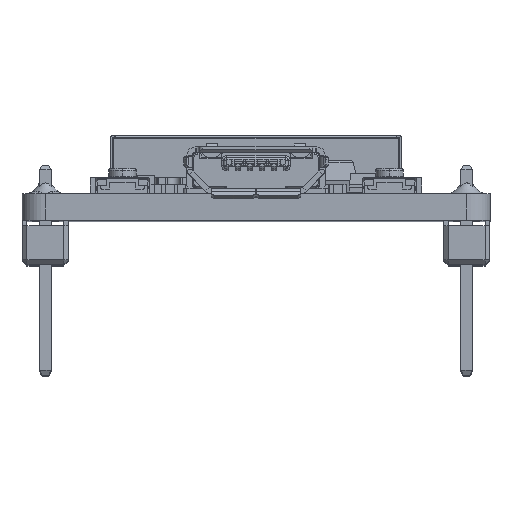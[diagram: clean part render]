
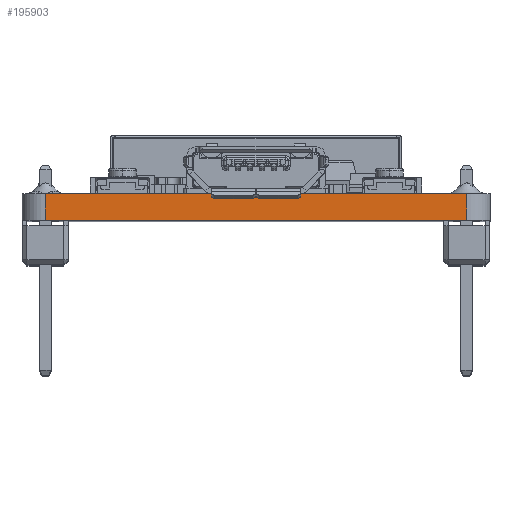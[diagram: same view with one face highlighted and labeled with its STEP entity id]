
A CAD part, top view. The second image highlights one B-rep face of the part: STEP entity #195903.
In plain terms, the highlighted planar face has unit normal (0, 0, 1).
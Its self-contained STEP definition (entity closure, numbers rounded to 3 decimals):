
#3948 = DIRECTION ( 'NONE',  ( 1., 0., 0. ) ) ;
#4244 = CARTESIAN_POINT ( 'NONE',  ( -11.43, 2.4, 24.13 ) ) ;
#8425 = LINE ( 'NONE', #128576, #117581 ) ;
#18014 = LINE ( 'NONE', #51726, #25705 ) ;
#25705 = VECTOR ( 'NONE', #192721, 1000. ) ;
#32747 = DIRECTION ( 'NONE',  ( 0., 0., 1. ) ) ;
#33740 = FACE_OUTER_BOUND ( 'NONE', #138702, .T. ) ;
#35657 = CARTESIAN_POINT ( 'NONE',  ( 0., -6.15, 24.13 ) ) ;
#39817 = VERTEX_POINT ( 'NONE', #45186 ) ;
#40648 = VERTEX_POINT ( 'NONE', #86184 ) ;
#45186 = CARTESIAN_POINT ( 'NONE',  ( 11.43, 2.4, 24.13 ) ) ;
#47581 = PLANE ( 'NONE',  #68516 ) ;
#48688 = CARTESIAN_POINT ( 'NONE',  ( -11.43, 3.85, 24.13 ) ) ;
#51726 = CARTESIAN_POINT ( 'NONE',  ( -11.43, -6.15, 24.13 ) ) ;
#60942 = CARTESIAN_POINT ( 'NONE',  ( 0., 3.85, 24.13 ) ) ;
#68516 = AXIS2_PLACEMENT_3D ( 'NONE', #35657, #32747, #3948 ) ;
#68600 = EDGE_CURVE ( 'NONE', #91842, #39817, #170005, .T. ) ;
#80869 = DIRECTION ( 'NONE',  ( 0., 1., 0. ) ) ;
#86184 = CARTESIAN_POINT ( 'NONE',  ( 11.43, 3.85, 24.13 ) ) ;
#91842 = VERTEX_POINT ( 'NONE', #4244 ) ;
#102995 = ORIENTED_EDGE ( 'NONE', *, *, #191320, .T. ) ;
#108517 = CARTESIAN_POINT ( 'NONE',  ( 0., 2.4, 24.13 ) ) ;
#114662 = EDGE_CURVE ( 'NONE', #157386, #40648, #123535, .T. ) ;
#116659 = EDGE_CURVE ( 'NONE', #157386, #91842, #18014, .T. ) ;
#117581 = VECTOR ( 'NONE', #80869, 1000. ) ;
#123535 = LINE ( 'NONE', #60942, #129745 ) ;
#127289 = ORIENTED_EDGE ( 'NONE', *, *, #116659, .T. ) ;
#128576 = CARTESIAN_POINT ( 'NONE',  ( 11.43, -6.15, 24.13 ) ) ;
#129745 = VECTOR ( 'NONE', #183187, 1000. ) ;
#130568 = ORIENTED_EDGE ( 'NONE', *, *, #114662, .F. ) ;
#138702 = EDGE_LOOP ( 'NONE', ( #130568, #127289, #165099, #102995 ) ) ;
#142657 = VECTOR ( 'NONE', #166049, 1000. ) ;
#157386 = VERTEX_POINT ( 'NONE', #48688 ) ;
#165099 = ORIENTED_EDGE ( 'NONE', *, *, #68600, .T. ) ;
#166049 = DIRECTION ( 'NONE',  ( 1., 0., 0. ) ) ;
#170005 = LINE ( 'NONE', #108517, #142657 ) ;
#183187 = DIRECTION ( 'NONE',  ( 1., 0., 0. ) ) ;
#191320 = EDGE_CURVE ( 'NONE', #39817, #40648, #8425, .T. ) ;
#192721 = DIRECTION ( 'NONE',  ( 0., -1., 0. ) ) ;
#195903 = ADVANCED_FACE ( 'NONE', ( #33740 ), #47581, .T. ) ;
